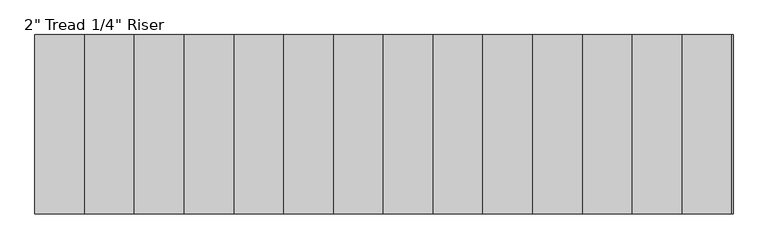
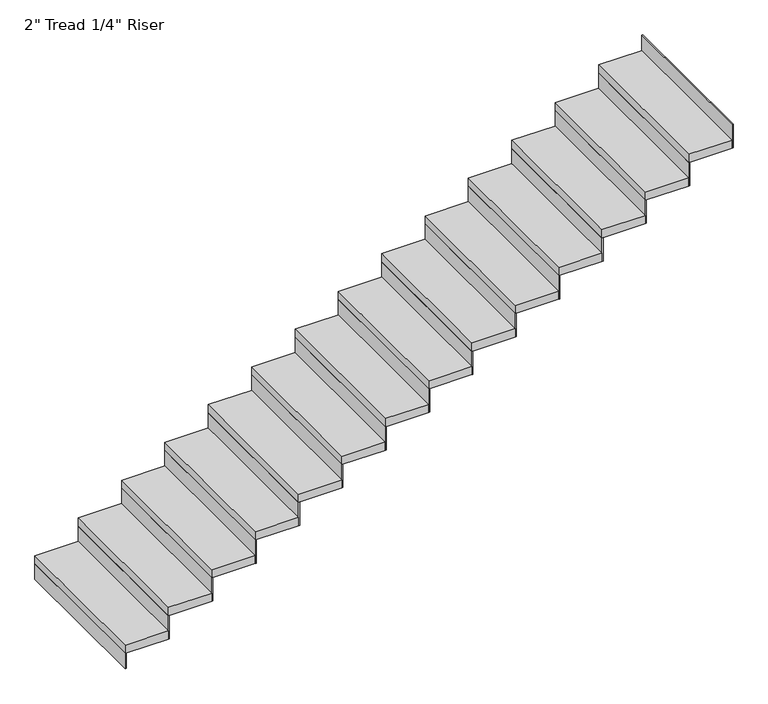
"""IFC4 building model written with IfcOpenShell, lengths in millimetres: stair flight geometry."""

from ifc_helpers import new_model, si_unit, frame, origin, origin_with_axes, place, context, project, spatial, polyline, outline, extrude, source, transform, mapped, element, save


def stair_flight_29aa7a5e(model_context):
    return source(origin(), model_context, "Body", "SweptSolid", [
        extrude(outline(polyline([(84304.1548368, -18868.6990002), (84297.8048368, -18868.6990002), (84297.8048368, -17954.2990002), (84304.1548368, -17954.2990002), (84304.1548368, -18868.6990002)])), origin_with_axes(), (0.0, 0.0, 1.0), 94.3428571),
        extrude(outline(polyline([(84551.8048368, -17954.2990002), (84551.8048368, -18868.6990002), (84297.8048368, -18868.6990002), (84297.8048368, -17954.2990002), (84551.8048368, -17954.2990002)])), frame((0.0, 0.0, 94.3428571), z_axis=(0.0, 0.0, 1.0), x_axis=(1.0, 0.0, 0.0)), (0.0, 0.0, 1.0), 50.8),
        extrude(outline(polyline([(84558.1548368, -18868.6990002), (84551.8048368, -18868.6990002), (84551.8048368, -17954.2990002), (84558.1548368, -17954.2990002), (84558.1548368, -18868.6990002)])), frame((0.0, 0.0, 94.3428571), z_axis=(0.0, 0.0, 1.0), x_axis=(1.0, 0.0, 0.0)), (0.0, 0.0, 1.0), 145.1428571),
        extrude(outline(polyline([(84805.8048368, -17954.2990002), (84805.8048368, -18868.6990002), (84551.8048368, -18868.6990002), (84551.8048368, -17954.2990002), (84805.8048368, -17954.2990002)])), frame((0.0, 0.0, 239.4857143), z_axis=(0.0, 0.0, 1.0), x_axis=(1.0, 0.0, 0.0)), (0.0, 0.0, 1.0), 50.8),
        extrude(outline(polyline([(84812.1548368, -18868.6990002), (84805.8048368, -18868.6990002), (84805.8048368, -17954.2990002), (84812.1548368, -17954.2990002), (84812.1548368, -18868.6990002)])), frame((0.0, 0.0, 239.4857143), z_axis=(0.0, 0.0, 1.0), x_axis=(1.0, 0.0, 0.0)), (0.0, 0.0, 1.0), 145.1428571),
        extrude(outline(polyline([(85059.8048368, -17954.2990002), (85059.8048368, -18868.6990002), (84805.8048368, -18868.6990002), (84805.8048368, -17954.2990002), (85059.8048368, -17954.2990002)])), frame((0.0, 0.0, 384.6285714), z_axis=(0.0, 0.0, 1.0), x_axis=(1.0, 0.0, 0.0)), (0.0, 0.0, 1.0), 50.8),
        extrude(outline(polyline([(85066.1548368, -18868.6990002), (85059.8048368, -18868.6990002), (85059.8048368, -17954.2990002), (85066.1548368, -17954.2990002), (85066.1548368, -18868.6990002)])), frame((0.0, 0.0, 384.6285714), z_axis=(0.0, 0.0, 1.0), x_axis=(1.0, 0.0, 0.0)), (0.0, 0.0, 1.0), 145.1428571),
        extrude(outline(polyline([(85313.8048368, -17954.2990002), (85313.8048368, -18868.6990002), (85059.8048368, -18868.6990002), (85059.8048368, -17954.2990002), (85313.8048368, -17954.2990002)])), frame((0.0, 0.0, 529.7714286), z_axis=(0.0, 0.0, 1.0), x_axis=(1.0, 0.0, 0.0)), (0.0, 0.0, 1.0), 50.8),
        extrude(outline(polyline([(85320.1548368, -18868.6990002), (85313.8048368, -18868.6990002), (85313.8048368, -17954.2990002), (85320.1548368, -17954.2990002), (85320.1548368, -18868.6990002)])), frame((0.0, 0.0, 529.7714286), z_axis=(0.0, 0.0, 1.0), x_axis=(1.0, 0.0, 0.0)), (0.0, 0.0, 1.0), 145.1428571),
        extrude(outline(polyline([(85567.8048368, -17954.2990002), (85567.8048368, -18868.6990002), (85313.8048368, -18868.6990002), (85313.8048368, -17954.2990002), (85567.8048368, -17954.2990002)])), frame((0.0, 0.0, 674.9142857), z_axis=(0.0, 0.0, 1.0), x_axis=(1.0, 0.0, 0.0)), (0.0, 0.0, 1.0), 50.8),
        extrude(outline(polyline([(85574.1548368, -18868.6990002), (85567.8048368, -18868.6990002), (85567.8048368, -17954.2990002), (85574.1548368, -17954.2990002), (85574.1548368, -18868.6990002)])), frame((0.0, 0.0, 674.9142857), z_axis=(0.0, 0.0, 1.0), x_axis=(1.0, 0.0, 0.0)), (0.0, 0.0, 1.0), 145.1428571),
        extrude(outline(polyline([(85821.8048368, -17954.2990002), (85821.8048368, -18868.6990002), (85567.8048368, -18868.6990002), (85567.8048368, -17954.2990002), (85821.8048368, -17954.2990002)])), frame((0.0, 0.0, 820.0571429), z_axis=(0.0, 0.0, 1.0), x_axis=(1.0, 0.0, 0.0)), (0.0, 0.0, 1.0), 50.8),
        extrude(outline(polyline([(85828.1548368, -18868.6990002), (85821.8048368, -18868.6990002), (85821.8048368, -17954.2990002), (85828.1548368, -17954.2990002), (85828.1548368, -18868.6990002)])), frame((0.0, 0.0, 820.0571429), z_axis=(0.0, 0.0, 1.0), x_axis=(1.0, 0.0, 0.0)), (0.0, 0.0, 1.0), 145.1428571),
        extrude(outline(polyline([(86075.8048368, -17954.2990002), (86075.8048368, -18868.6990002), (85821.8048368, -18868.6990002), (85821.8048368, -17954.2990002), (86075.8048368, -17954.2990002)])), frame((0.0, 0.0, 965.2), z_axis=(0.0, 0.0, 1.0), x_axis=(1.0, 0.0, 0.0)), (0.0, 0.0, 1.0), 50.8),
        extrude(outline(polyline([(86082.1548368, -18868.6990002), (86075.8048368, -18868.6990002), (86075.8048368, -17954.2990002), (86082.1548368, -17954.2990002), (86082.1548368, -18868.6990002)])), frame((0.0, 0.0, 965.2), z_axis=(0.0, 0.0, 1.0), x_axis=(1.0, 0.0, 0.0)), (0.0, 0.0, 1.0), 145.1428571),
        extrude(outline(polyline([(86329.8048368, -17954.2990002), (86329.8048368, -18868.6990002), (86075.8048368, -18868.6990002), (86075.8048368, -17954.2990002), (86329.8048368, -17954.2990002)])), frame((0.0, 0.0, 1110.3428571), z_axis=(0.0, 0.0, 1.0), x_axis=(1.0, 0.0, 0.0)), (0.0, 0.0, 1.0), 50.8),
        extrude(outline(polyline([(86336.1548368, -18868.6990002), (86329.8048368, -18868.6990002), (86329.8048368, -17954.2990002), (86336.1548368, -17954.2990002), (86336.1548368, -18868.6990002)])), frame((0.0, 0.0, 1110.3428571), z_axis=(0.0, 0.0, 1.0), x_axis=(1.0, 0.0, 0.0)), (0.0, 0.0, 1.0), 145.1428571),
        extrude(outline(polyline([(86583.8048368, -17954.2990002), (86583.8048368, -18868.6990002), (86329.8048368, -18868.6990002), (86329.8048368, -17954.2990002), (86583.8048368, -17954.2990002)])), frame((0.0, 0.0, 1255.4857143), z_axis=(0.0, 0.0, 1.0), x_axis=(1.0, 0.0, 0.0)), (0.0, 0.0, 1.0), 50.8),
        extrude(outline(polyline([(86590.1548368, -18868.6990002), (86583.8048368, -18868.6990002), (86583.8048368, -17954.2990002), (86590.1548368, -17954.2990002), (86590.1548368, -18868.6990002)])), frame((0.0, 0.0, 1255.4857143), z_axis=(0.0, 0.0, 1.0), x_axis=(1.0, 0.0, 0.0)), (0.0, 0.0, 1.0), 145.1428571),
        extrude(outline(polyline([(86837.8048368, -17954.2990002), (86837.8048368, -18868.6990002), (86583.8048368, -18868.6990002), (86583.8048368, -17954.2990002), (86837.8048368, -17954.2990002)])), frame((0.0, 0.0, 1400.6285714), z_axis=(0.0, 0.0, 1.0), x_axis=(1.0, 0.0, 0.0)), (0.0, 0.0, 1.0), 50.8),
        extrude(outline(polyline([(86844.1548368, -18868.6990002), (86837.8048368, -18868.6990002), (86837.8048368, -17954.2990002), (86844.1548368, -17954.2990002), (86844.1548368, -18868.6990002)])), frame((0.0, 0.0, 1400.6285714), z_axis=(0.0, 0.0, 1.0), x_axis=(1.0, 0.0, 0.0)), (0.0, 0.0, 1.0), 145.1428571),
        extrude(outline(polyline([(87091.8048368, -17954.2990002), (87091.8048368, -18868.6990002), (86837.8048368, -18868.6990002), (86837.8048368, -17954.2990002), (87091.8048368, -17954.2990002)])), frame((0.0, 0.0, 1545.7714286), z_axis=(0.0, 0.0, 1.0), x_axis=(1.0, 0.0, 0.0)), (0.0, 0.0, 1.0), 50.8),
        extrude(outline(polyline([(87098.1548368, -18868.6990002), (87091.8048368, -18868.6990002), (87091.8048368, -17954.2990002), (87098.1548368, -17954.2990002), (87098.1548368, -18868.6990002)])), frame((0.0, 0.0, 1545.7714286), z_axis=(0.0, 0.0, 1.0), x_axis=(1.0, 0.0, 0.0)), (0.0, 0.0, 1.0), 145.1428571),
        extrude(outline(polyline([(87345.8048368, -17954.2990002), (87345.8048368, -18868.6990002), (87091.8048368, -18868.6990002), (87091.8048368, -17954.2990002), (87345.8048368, -17954.2990002)])), frame((0.0, 0.0, 1690.9142857), z_axis=(0.0, 0.0, 1.0), x_axis=(1.0, 0.0, 0.0)), (0.0, 0.0, 1.0), 50.8),
        extrude(outline(polyline([(87352.1548368, -18868.6990002), (87345.8048368, -18868.6990002), (87345.8048368, -17954.2990002), (87352.1548368, -17954.2990002), (87352.1548368, -18868.6990002)])), frame((0.0, 0.0, 1690.9142857), z_axis=(0.0, 0.0, 1.0), x_axis=(1.0, 0.0, 0.0)), (0.0, 0.0, 1.0), 145.1428571),
        extrude(outline(polyline([(87599.8048368, -17954.2990002), (87599.8048368, -18868.6990002), (87345.8048368, -18868.6990002), (87345.8048368, -17954.2990002), (87599.8048368, -17954.2990002)])), frame((0.0, 0.0, 1836.0571429), z_axis=(0.0, 0.0, 1.0), x_axis=(1.0, 0.0, 0.0)), (0.0, 0.0, 1.0), 50.8),
        extrude(outline(polyline([(87606.1548368, -18868.6990002), (87599.8048368, -18868.6990002), (87599.8048368, -17954.2990002), (87606.1548368, -17954.2990002), (87606.1548368, -18868.6990002)])), frame((0.0, 0.0, 1836.0571429), z_axis=(0.0, 0.0, 1.0), x_axis=(1.0, 0.0, 0.0)), (0.0, 0.0, 1.0), 145.1428571),
        extrude(outline(polyline([(87860.1548368, -18868.6990002), (87853.8048368, -18868.6990002), (87853.8048368, -17954.2990002), (87860.1548368, -17954.2990002), (87860.1548368, -18868.6990002)])), frame((0.0, 0.0, 1981.2), z_axis=(0.0, 0.0, 1.0), x_axis=(1.0, 0.0, 0.0)), (0.0, 0.0, 1.0), 145.1428571),
        extrude(outline(polyline([(87853.8048368, -17954.2990002), (87853.8048368, -18868.6990002), (87599.8048368, -18868.6990002), (87599.8048368, -17954.2990002), (87853.8048368, -17954.2990002)])), frame((0.0, 0.0, 1981.2), z_axis=(0.0, 0.0, 1.0), x_axis=(1.0, 0.0, 0.0)), (0.0, 0.0, 1.0), 50.8),
    ])


if __name__ == "__main__":
    model = new_model("IFC4")
    model_context = context("Model", 3, world=origin())
    ifc_project = project(units=[si_unit("LENGTHUNIT", "METRE", prefix="MILLI")], contexts=[model_context])
    site = spatial("IfcSite", under=ifc_project)
    building = spatial("IfcBuilding", under=site)
    placement = place(None, origin())
    stair_flight_shape = stair_flight_29aa7a5e(model_context)
    element("IfcStairFlight", 1, ObjectType="2\" Tread 1/4\" Riser", at=placement, inside=building, context=model_context, shape_type="MappedRepresentation", body=[
        mapped(stair_flight_shape, transform((0.0, 0.0, 0.0), x_axis=(1.0, 0.0, 0.0), y_axis=(0.0, 1.0, 0.0), z_axis=(0.0, 0.0, 1.0))),
    ])
    save(model, "model.ifc")
